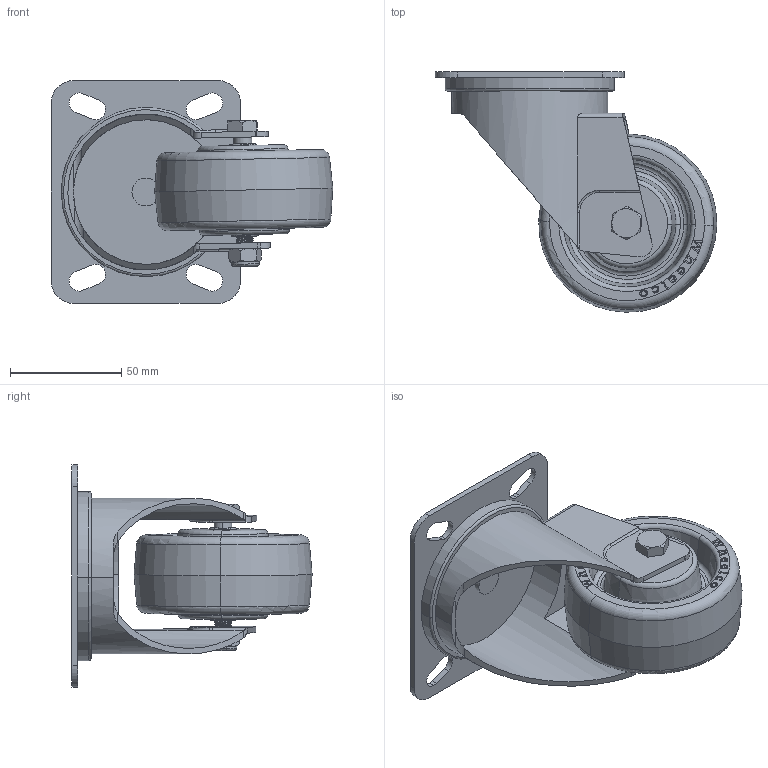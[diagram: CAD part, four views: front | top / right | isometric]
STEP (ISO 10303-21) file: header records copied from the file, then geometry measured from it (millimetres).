
FILE_DESCRIPTION (( 'STEP AP214' ), '1' );
FILE_NAME ('MSU80-SP.step', '2024-01-21T22:24:52', ( '' ), ( '' ), 'SwSTEP 2.0', 'SolidWorks 2022', '' );
FILE_SCHEMA (( 'AUTOMOTIVE_DESIGN' ));
Length unit declared in the file: millimetre
Products named in the file (7): MSU80-SP; M8x55-SS; M8Nyloc-SS; MSU80_Re-size; 100X85 ANGLED; SP12-8-41-SS
Assembly tree (6 placements, depth 2):
  MSU80-SP
    MSU80-SP
    M8Nyloc-SS
    M8x55-SS
    SP12-8-41-SS
    MSU80_Re-size
    100X85 ANGLED
Bounding box: 126.47 x 107.89 x 100 mm (x, y, z)
Volume: 207693.7 mm3; surface area: 80803.2 mm2
Topology: 6 solids, 6 shells, 1024 faces, 2803 edges, 1852 vertices
Faces by surface type: plane 521, bspline 321, cylinder 114, torus 34, cone 32, sphere 2
Entity records: 54290 total; most frequent: CARTESIAN_POINT 29627, ORIENTED_EDGE 5606, DIRECTION 3627, EDGE_CURVE 2803, VERTEX_POINT 1852, VECTOR 1703, LINE 1703, EDGE_LOOP 1105
